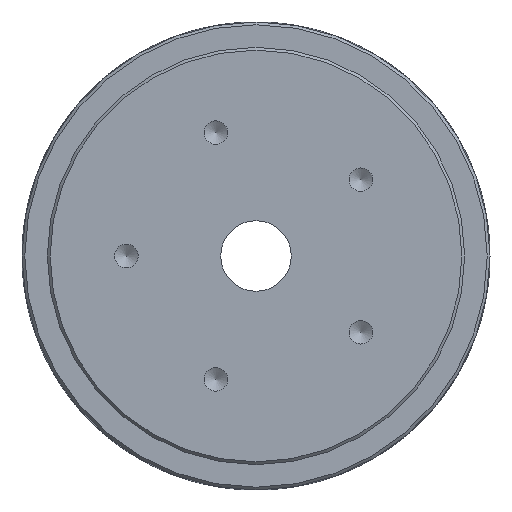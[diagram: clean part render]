
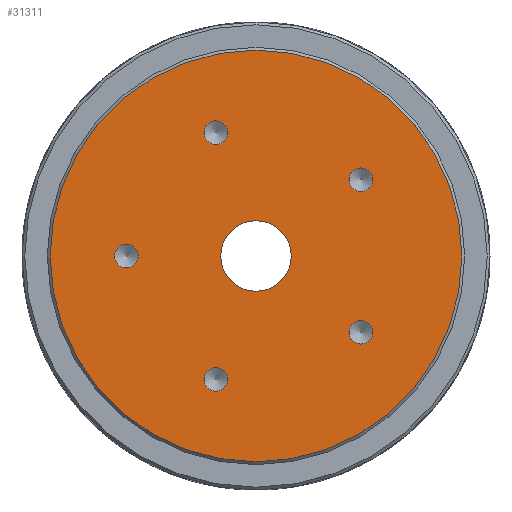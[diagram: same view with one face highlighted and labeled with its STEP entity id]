
A CAD part, left-side view. The second image highlights one B-rep face of the part: STEP entity #31311.
In plain terms, the highlighted planar face has unit normal (-1, 0, 0).
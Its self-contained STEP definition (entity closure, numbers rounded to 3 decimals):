
#2303=FACE_BOUND('',#9282,.T.);
#2304=FACE_BOUND('',#9283,.T.);
#2305=FACE_BOUND('',#9284,.T.);
#2306=FACE_BOUND('',#9285,.T.);
#2307=FACE_BOUND('',#9286,.T.);
#2308=FACE_BOUND('',#9287,.T.);
#7580=FACE_OUTER_BOUND('',#9281,.T.);
#9281=EDGE_LOOP('',(#27843));
#9282=EDGE_LOOP('',(#27844));
#9283=EDGE_LOOP('',(#27845));
#9284=EDGE_LOOP('',(#27846));
#9285=EDGE_LOOP('',(#27847));
#9286=EDGE_LOOP('',(#27848));
#9287=EDGE_LOOP('',(#27849));
#10210=CIRCLE('',#35962,73.);
#10211=CIRCLE('',#35964,12.5);
#10212=CIRCLE('',#35965,4.188);
#10213=CIRCLE('',#35966,4.188);
#10214=CIRCLE('',#35967,4.188);
#10215=CIRCLE('',#35968,4.188);
#10216=CIRCLE('',#35969,4.188);
#13415=VERTEX_POINT('',#57032);
#13416=VERTEX_POINT('',#57036);
#13417=VERTEX_POINT('',#57038);
#13418=VERTEX_POINT('',#57040);
#13419=VERTEX_POINT('',#57042);
#13420=VERTEX_POINT('',#57044);
#13421=VERTEX_POINT('',#57046);
#18247=EDGE_CURVE('',#13415,#13415,#10210,.T.);
#18248=EDGE_CURVE('',#13416,#13416,#10211,.T.);
#18249=EDGE_CURVE('',#13417,#13417,#10212,.T.);
#18250=EDGE_CURVE('',#13418,#13418,#10213,.T.);
#18251=EDGE_CURVE('',#13419,#13419,#10214,.T.);
#18252=EDGE_CURVE('',#13420,#13420,#10215,.T.);
#18253=EDGE_CURVE('',#13421,#13421,#10216,.T.);
#27843=ORIENTED_EDGE('',*,*,#18247,.F.);
#27844=ORIENTED_EDGE('',*,*,#18248,.T.);
#27845=ORIENTED_EDGE('',*,*,#18249,.T.);
#27846=ORIENTED_EDGE('',*,*,#18250,.T.);
#27847=ORIENTED_EDGE('',*,*,#18251,.T.);
#27848=ORIENTED_EDGE('',*,*,#18252,.T.);
#27849=ORIENTED_EDGE('',*,*,#18253,.T.);
#29669=PLANE('',#35963);
#31311=ADVANCED_FACE('',(#7580,#2303,#2304,#2305,#2306,#2307,#2308),#29669,
 .T.);
#35962=AXIS2_PLACEMENT_3D('',#57034,#46978,#46979);
#35963=AXIS2_PLACEMENT_3D('',#57035,#46980,#46981);
#35964=AXIS2_PLACEMENT_3D('',#57037,#46982,#46983);
#35965=AXIS2_PLACEMENT_3D('',#57039,#46984,#46985);
#35966=AXIS2_PLACEMENT_3D('',#57041,#46986,#46987);
#35967=AXIS2_PLACEMENT_3D('',#57043,#46988,#46989);
#35968=AXIS2_PLACEMENT_3D('',#57045,#46990,#46991);
#35969=AXIS2_PLACEMENT_3D('',#57047,#46992,#46993);
#46978=DIRECTION('center_axis',(1.,0.,0.));
#46979=DIRECTION('ref_axis',(0.,-1.,0.));
#46980=DIRECTION('center_axis',(-1.,0.,0.));
#46981=DIRECTION('ref_axis',(0.,0.,1.));
#46982=DIRECTION('center_axis',(1.,0.,0.));
#46983=DIRECTION('ref_axis',(0.,1.,0.));
#46984=DIRECTION('center_axis',(1.,0.,0.));
#46985=DIRECTION('ref_axis',(0.,0.,1.));
#46986=DIRECTION('center_axis',(1.,0.,0.));
#46987=DIRECTION('ref_axis',(0.,0.,1.));
#46988=DIRECTION('center_axis',(1.,0.,0.));
#46989=DIRECTION('ref_axis',(0.,0.,1.));
#46990=DIRECTION('center_axis',(1.,0.,0.));
#46991=DIRECTION('ref_axis',(0.,0.,1.));
#46992=DIRECTION('center_axis',(1.,0.,0.));
#46993=DIRECTION('ref_axis',(0.,0.,1.));
#57032=CARTESIAN_POINT('',(-17.5,73.,0.));
#57034=CARTESIAN_POINT('Origin',(-17.5,0.,0.));
#57035=CARTESIAN_POINT('Origin',(-17.5,43.25,0.));
#57036=CARTESIAN_POINT('',(-17.5,-12.5,0.));
#57037=CARTESIAN_POINT('Origin',(-17.5,0.,0.));
#57038=CARTESIAN_POINT('',(-17.5,46.,-4.188));
#57039=CARTESIAN_POINT('Origin',(-17.5,46.,0.));
#57040=CARTESIAN_POINT('',(-17.5,14.215,-47.937));
#57041=CARTESIAN_POINT('Origin',(-17.5,14.215,-43.749));
#57042=CARTESIAN_POINT('',(-17.5,-37.215,-31.226));
#57043=CARTESIAN_POINT('Origin',(-17.5,-37.215,-27.038));
#57044=CARTESIAN_POINT('',(-17.5,-37.215,22.85));
#57045=CARTESIAN_POINT('Origin',(-17.5,-37.215,27.038));
#57046=CARTESIAN_POINT('',(-17.5,14.215,39.561));
#57047=CARTESIAN_POINT('Origin',(-17.5,14.215,43.749));
